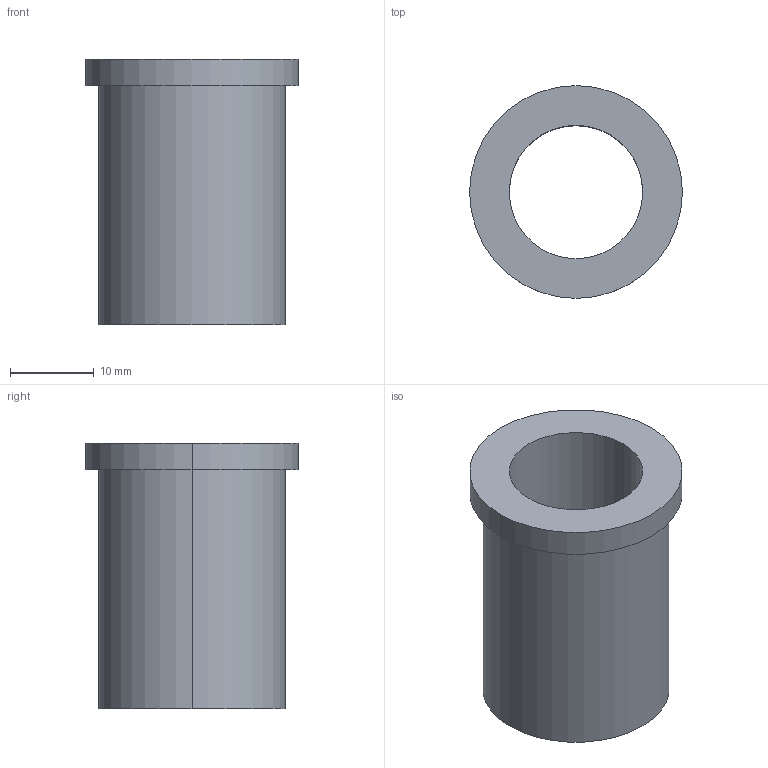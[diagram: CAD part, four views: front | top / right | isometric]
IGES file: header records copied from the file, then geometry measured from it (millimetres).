
Global section: file name: C:\Documents and Settings\Administrator\Desktop\Transfer Temp\bushing-fbb-10-20.igs; native system: AutoDesk Inventor R2.0 ; preprocessor: AutoDesk Inventor Iges Exporter R2.0; author: No Author specified; organization: No Organization specified; date: 20011227.203321; units: inch
Bounding box: 25.4 x 25.4 x 31.75 mm (x, y, z)
Surface area: 4456.6 mm2 (no closed solid volume)
Topology: 0 solids, 0 shells, 9 faces, 36 edges, 36 vertices
Faces by surface type: revolution 6, bspline 3
